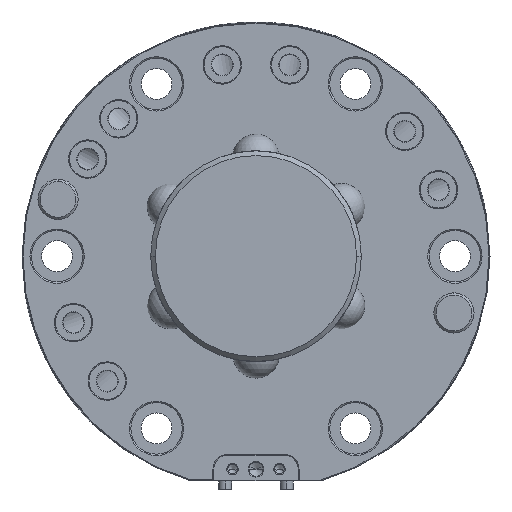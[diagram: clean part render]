
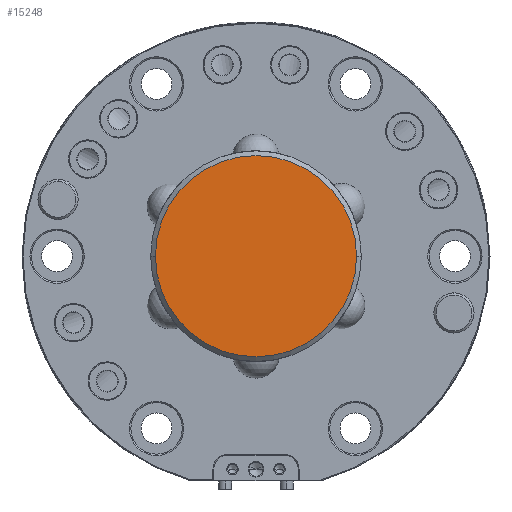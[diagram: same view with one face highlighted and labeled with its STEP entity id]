
A CAD part, front view. The second image highlights one B-rep face of the part: STEP entity #15248.
In plain terms, the highlighted planar face has unit normal (0, -1, 0).
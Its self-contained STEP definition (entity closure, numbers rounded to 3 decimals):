
#1469 = CARTESIAN_POINT ( 'NONE',  ( -21.5, 43.18, 0. ) ) ;
#1532 = DIRECTION ( 'NONE',  ( 0., -1., 0. ) ) ;
#1704 = CARTESIAN_POINT ( 'NONE',  ( 0., 43.18, 0. ) ) ;
#3313 = VERTEX_POINT ( 'NONE', #11367 ) ;
#3932 = AXIS2_PLACEMENT_3D ( 'NONE', #16860, #1532, #4683 ) ;
#4569 = AXIS2_PLACEMENT_3D ( 'NONE', #1704, #12229, #9146 ) ;
#4683 = DIRECTION ( 'NONE',  ( 1., 0., 0. ) ) ;
#4690 = EDGE_LOOP ( 'NONE', ( #12183, #10050 ) ) ;
#5361 = VERTEX_POINT ( 'NONE', #14097 ) ;
#5941 = PLANE ( 'NONE',  #18226 ) ;
#6016 = DIRECTION ( 'NONE',  ( -1., 0., 0. ) ) ;
#7588 = FACE_OUTER_BOUND ( 'NONE', #4690, .T. ) ;
#9146 = DIRECTION ( 'NONE',  ( 1., 0., 0. ) ) ;
#10050 = ORIENTED_EDGE ( 'NONE', *, *, #17397, .T. ) ;
#11367 = CARTESIAN_POINT ( 'NONE',  ( -21.5, 43.18, 0. ) ) ;
#12183 = ORIENTED_EDGE ( 'NONE', *, *, #17827, .T. ) ;
#12229 = DIRECTION ( 'NONE',  ( 0., -1., 0. ) ) ;
#13590 = DIRECTION ( 'NONE',  ( 0., 1., 0. ) ) ;
#14097 = CARTESIAN_POINT ( 'NONE',  ( 21.5, 43.18, 0. ) ) ;
#14837 = CIRCLE ( 'NONE', #4569, 21.5 ) ;
#15248 = ADVANCED_FACE ( 'NONE', ( #7588 ), #5941, .F. ) ;
#15421 = CIRCLE ( 'NONE', #3932, 21.5 ) ;
#16860 = CARTESIAN_POINT ( 'NONE',  ( 0., 43.18, 0. ) ) ;
#17397 = EDGE_CURVE ( 'NONE', #5361, #3313, #15421, .T. ) ;
#17827 = EDGE_CURVE ( 'NONE', #3313, #5361, #14837, .T. ) ;
#18226 = AXIS2_PLACEMENT_3D ( 'NONE', #1469, #13590, #6016 ) ;
